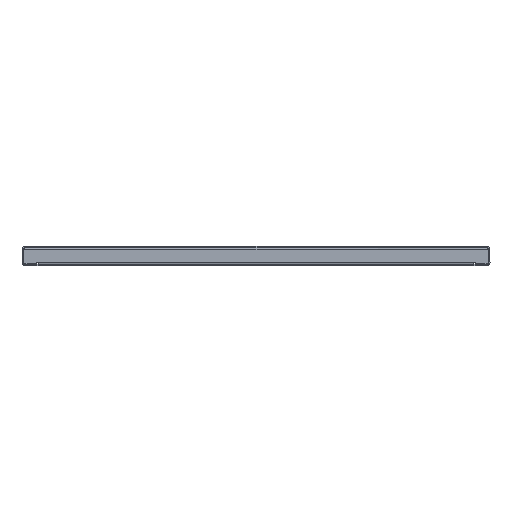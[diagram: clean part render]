
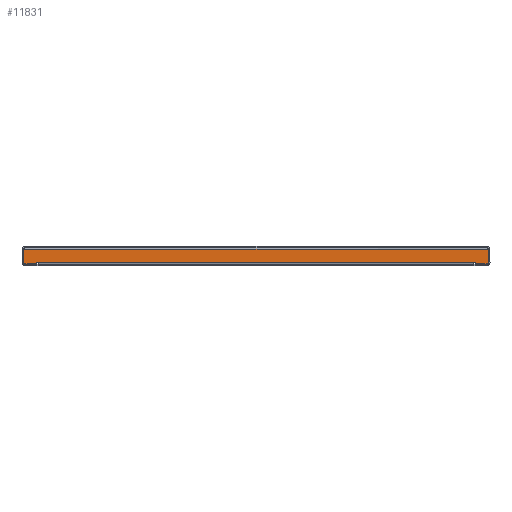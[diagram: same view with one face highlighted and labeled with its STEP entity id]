
A CAD part, front view. The second image highlights one B-rep face of the part: STEP entity #11831.
In plain terms, the highlighted planar face has unit normal (0, -1, 0) as drawn and (0, 1, 0) by its records, which use the part's own axes.
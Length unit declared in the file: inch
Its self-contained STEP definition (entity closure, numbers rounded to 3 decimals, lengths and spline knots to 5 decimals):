
#204 = EDGE_CURVE ( 'NONE', #3098, #2732, #1553, .T. ) ;
#209 = EDGE_CURVE ( 'NONE', #2722, #3002, #2140, .T. ) ;
#396 = EDGE_CURVE ( 'NONE', #3265, #3002, #1289, .T. ) ;
#406 = EDGE_CURVE ( 'NONE', #3024, #3194, #1266, .T. ) ;
#608 = EDGE_CURVE ( 'NONE', #3194, #2559, #2433, .T. ) ;
#873 = EDGE_CURVE ( 'NONE', #2559, #2722, #2093, .T. ) ;
#953 = EDGE_CURVE ( 'NONE', #3265, #2561, #1929, .T. ) ;
#961 = EDGE_CURVE ( 'NONE', #2561, #3171, #2022, .T. ) ;
#1046 = EDGE_CURVE ( 'NONE', #3098, #3024, #6506, .T. ) ;
#1083 = EDGE_CURVE ( 'NONE', #3171, #2732, #6597, .T. ) ;
#1265 = VECTOR ( 'NONE', #10054, 39.37008 ) ;
#1266 = LINE ( 'NONE', #10059, #1265 ) ;
#1284 = VECTOR ( 'NONE', #10782, 39.37008 ) ;
#1289 = LINE ( 'NONE', #11056, #1284 ) ;
#1547 = VECTOR ( 'NONE', #10157, 39.37008 ) ;
#1553 = LINE ( 'NONE', #10079, #1559 ) ;
#1559 = VECTOR ( 'NONE', #10437, 39.37008 ) ;
#1929 = LINE ( 'NONE', #8805, #2000 ) ;
#1942 = VECTOR ( 'NONE', #9010, 39.37008 ) ;
#2000 = VECTOR ( 'NONE', #8808, 39.37008 ) ;
#2022 = LINE ( 'NONE', #8898, #2050 ) ;
#2050 = VECTOR ( 'NONE', #8972, 39.37008 ) ;
#2093 = LINE ( 'NONE', #9517, #1942 ) ;
#2140 = LINE ( 'NONE', #10080, #1547 ) ;
#2426 = VECTOR ( 'NONE', #10562, 39.37008 ) ;
#2433 = LINE ( 'NONE', #10243, #2426 ) ;
#2559 = VERTEX_POINT ( 'NONE', #8918 ) ;
#2561 = VERTEX_POINT ( 'NONE', #9016 ) ;
#2722 = VERTEX_POINT ( 'NONE', #8756 ) ;
#2732 = VERTEX_POINT ( 'NONE', #9537 ) ;
#3002 = VERTEX_POINT ( 'NONE', #9576 ) ;
#3024 = VERTEX_POINT ( 'NONE', #8903 ) ;
#3098 = VERTEX_POINT ( 'NONE', #9228 ) ;
#3171 = VERTEX_POINT ( 'NONE', #7883 ) ;
#3194 = VERTEX_POINT ( 'NONE', #7946 ) ;
#3265 = VERTEX_POINT ( 'NONE', #7690 ) ;
#5263 = EDGE_LOOP ( 'NONE', ( #5819, #5760, #5569, #5728, #6054, #5583, #5901, #6004, #6065, #6055 ) ) ;
#5569 = ORIENTED_EDGE ( 'NONE', *, *, #406, .F. ) ;
#5583 = ORIENTED_EDGE ( 'NONE', *, *, #1083, .F. ) ;
#5728 = ORIENTED_EDGE ( 'NONE', *, *, #1046, .F. ) ;
#5760 = ORIENTED_EDGE ( 'NONE', *, *, #608, .F. ) ;
#5819 = ORIENTED_EDGE ( 'NONE', *, *, #873, .F. ) ;
#5901 = ORIENTED_EDGE ( 'NONE', *, *, #961, .F. ) ;
#6004 = ORIENTED_EDGE ( 'NONE', *, *, #953, .F. ) ;
#6054 = ORIENTED_EDGE ( 'NONE', *, *, #204, .T. ) ;
#6055 = ORIENTED_EDGE ( 'NONE', *, *, #209, .F. ) ;
#6065 = ORIENTED_EDGE ( 'NONE', *, *, #396, .T. ) ;
#6189 = AXIS2_PLACEMENT_3D ( 'NONE', #11464, #11450, #11448 ) ;
#6473 = VECTOR ( 'NONE', #9122, 39.37008 ) ;
#6506 = LINE ( 'NONE', #9841, #6569 ) ;
#6569 = VECTOR ( 'NONE', #9813, 39.37008 ) ;
#6597 = LINE ( 'NONE', #9111, #6473 ) ;
#7087 = FACE_OUTER_BOUND ( 'NONE', #5263, .T. ) ;
#7690 = CARTESIAN_POINT ( 'NONE',  ( -13.445, 31.8845, 1.015 ) ) ;
#7883 = CARTESIAN_POINT ( 'NONE',  ( -13.57, 31.8845, 1.077 ) ) ;
#7946 = CARTESIAN_POINT ( 'NONE',  ( 14.34932, 31.8845, 1.077 ) ) ;
#8756 = CARTESIAN_POINT ( 'NONE',  ( 13.57, 31.8845, 1.015 ) ) ;
#8805 = CARTESIAN_POINT ( 'NONE',  ( -14.287, 31.8845, 1.015 ) ) ;
#8808 = DIRECTION ( 'NONE',  ( -1., 0., 0. ) ) ;
#8898 = CARTESIAN_POINT ( 'NONE',  ( -13.57, 31.8845, 0.097 ) ) ;
#8903 = CARTESIAN_POINT ( 'NONE',  ( 14.34932, 31.8845, 0.177 ) ) ;
#8918 = CARTESIAN_POINT ( 'NONE',  ( 13.57, 31.8845, 1.077 ) ) ;
#8972 = DIRECTION ( 'NONE',  ( 0., 0., 1. ) ) ;
#9010 = DIRECTION ( 'NONE',  ( 0., 0., -1. ) ) ;
#9016 = CARTESIAN_POINT ( 'NONE',  ( -13.57, 31.8845, 1.015 ) ) ;
#9111 = CARTESIAN_POINT ( 'NONE',  ( -13.57, 31.8845, 1.077 ) ) ;
#9122 = DIRECTION ( 'NONE',  ( -1., 0., 0. ) ) ;
#9228 = CARTESIAN_POINT ( 'NONE',  ( -14.34932, 31.8845, 0.177 ) ) ;
#9517 = CARTESIAN_POINT ( 'NONE',  ( 13.57, 31.8845, 0.097 ) ) ;
#9537 = CARTESIAN_POINT ( 'NONE',  ( -14.34932, 31.8845, 1.077 ) ) ;
#9576 = CARTESIAN_POINT ( 'NONE',  ( 13.445, 31.8845, 1.015 ) ) ;
#9813 = DIRECTION ( 'NONE',  ( 1., 0., 0. ) ) ;
#9841 = CARTESIAN_POINT ( 'NONE',  ( 14.287, 31.8845, 0.177 ) ) ;
#10054 = DIRECTION ( 'NONE',  ( 0., 0., 1. ) ) ;
#10059 = CARTESIAN_POINT ( 'NONE',  ( 14.34932, 31.8845, 0.177 ) ) ;
#10079 = CARTESIAN_POINT ( 'NONE',  ( -14.34932, 31.8845, 0.177 ) ) ;
#10080 = CARTESIAN_POINT ( 'NONE',  ( -14.287, 31.8845, 1.015 ) ) ;
#10157 = DIRECTION ( 'NONE',  ( -1., 0., 0. ) ) ;
#10243 = CARTESIAN_POINT ( 'NONE',  ( 14.34932, 31.8845, 1.077 ) ) ;
#10437 = DIRECTION ( 'NONE',  ( 0., 0., 1. ) ) ;
#10562 = DIRECTION ( 'NONE',  ( -1., 0., 0. ) ) ;
#10782 = DIRECTION ( 'NONE',  ( 1., 0., 0. ) ) ;
#11056 = CARTESIAN_POINT ( 'NONE',  ( -13.445, 31.8845, 1.015 ) ) ;
#11448 = DIRECTION ( 'NONE',  ( 0., 0., -1. ) ) ;
#11450 = DIRECTION ( 'NONE',  ( 0., -1., 0. ) ) ;
#11456 = PLANE ( 'NONE',  #6189 ) ;
#11464 = CARTESIAN_POINT ( 'NONE',  ( -14.287, 31.8845, 0.097 ) ) ;
#11831 = ADVANCED_FACE ( 'NONE', ( #7087 ), #11456, .F. ) ;
